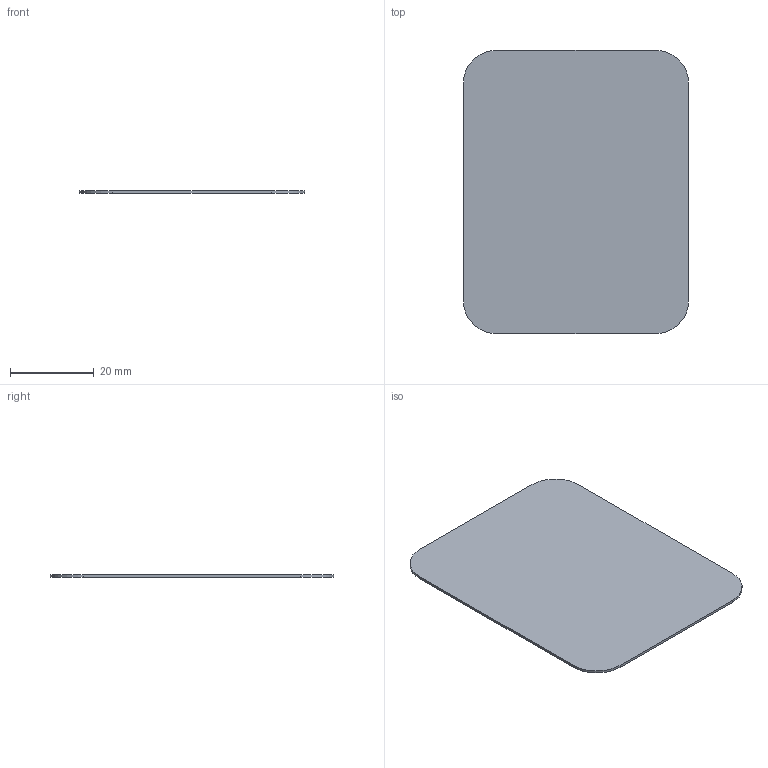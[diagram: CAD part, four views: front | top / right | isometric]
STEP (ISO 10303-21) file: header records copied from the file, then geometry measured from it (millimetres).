
FILE_DESCRIPTION(('Open CASCADE Model'),'2;1');
FILE_NAME('Open CASCADE Shape Model','2026-09-04T20:35:58',('Author'),( 'Open CASCADE'),'Open CASCADE STEP processor 7.7','Open CASCADE 7.7' ,'Unknown');
FILE_SCHEMA(('AUTOMOTIVE_DESIGN { 1 0 10303 214 1 1 1 1 }'));
Length unit declared in the file: millimetre
Products named in the file (1): Open CASCADE STEP translator 7.7 7
Bounding box: 53.8 x 67.8 x 0.6 mm (x, y, z)
Volume: 2156.4 mm3; surface area: 7325.9 mm2
Topology: 1 solids, 1 shells, 10 faces, 24 edges, 16 vertices
Faces by surface type: plane 6, cylinder 4
Entity records: 630 total; most frequent: CARTESIAN_POINT 123, DIRECTION 98, LINE 56, VECTOR 56, ORIENTED_EDGE 48, PCURVE 48, DEFINITIONAL_REPRESENTATION 48, EDGE_CURVE 24
